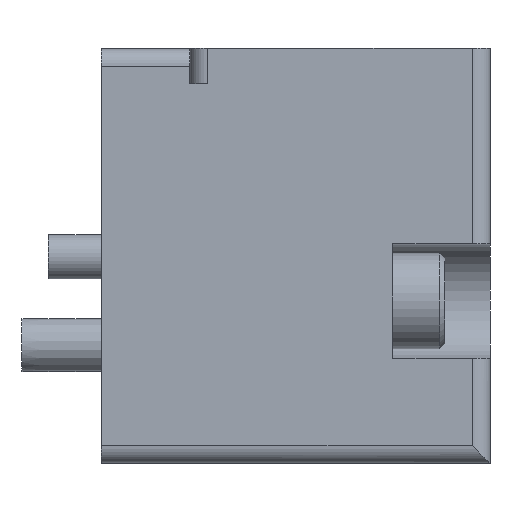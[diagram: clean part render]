
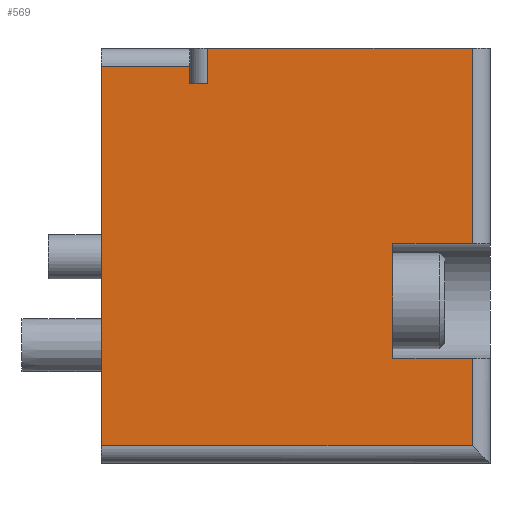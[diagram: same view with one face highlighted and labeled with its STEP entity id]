
A CAD part, left-side view. The second image highlights one B-rep face of the part: STEP entity #569.
In plain terms, the highlighted planar face has unit normal (-1, 0, 0).
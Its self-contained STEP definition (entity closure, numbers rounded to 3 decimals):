
#569=ADVANCED_FACE('',(#1288),#1289,.F.);
#1288=FACE_OUTER_BOUND('',#2159,.T.);
#1289=PLANE('',#2160);
#2159=EDGE_LOOP('',(#3736,#3737,#3738,#3739,#3740,#3741,#3742,#3743,#3744,#3745,#3746,#3747));
#2160=AXIS2_PLACEMENT_3D('',#3748,#3749,#3750);
#3736=ORIENTED_EDGE('',*,*,#4849,.T.);
#3737=ORIENTED_EDGE('',*,*,#4868,.T.);
#3738=ORIENTED_EDGE('',*,*,#4796,.F.);
#3739=ORIENTED_EDGE('',*,*,#4409,.T.);
#3740=ORIENTED_EDGE('',*,*,#4863,.T.);
#3741=ORIENTED_EDGE('',*,*,#4507,.T.);
#3742=ORIENTED_EDGE('',*,*,#4889,.T.);
#3743=ORIENTED_EDGE('',*,*,#4498,.F.);
#3744=ORIENTED_EDGE('',*,*,#4879,.T.);
#3745=ORIENTED_EDGE('',*,*,#4770,.T.);
#3746=ORIENTED_EDGE('',*,*,#4890,.F.);
#3747=ORIENTED_EDGE('',*,*,#4539,.T.);
#3748=CARTESIAN_POINT('',(-16.0,-22.0,-6.7));
#3749=DIRECTION('',(1.0,0.0,0.0));
#3750=DIRECTION('',(0.0,1.0,0.0));
#4409=EDGE_CURVE('',#5112,#5109,#5113,.T.);
#4498=EDGE_CURVE('',#5267,#5269,#5270,.T.);
#4507=EDGE_CURVE('',#5281,#5283,#5285,.T.);
#4539=EDGE_CURVE('',#5331,#5335,#5337,.T.);
#4770=EDGE_CURVE('',#5666,#5663,#5667,.T.);
#4796=EDGE_CURVE('',#5112,#5698,#5699,.T.);
#4849=EDGE_CURVE('',#5335,#5774,#5776,.T.);
#4863=EDGE_CURVE('',#5109,#5281,#5795,.T.);
#4868=EDGE_CURVE('',#5774,#5698,#5801,.T.);
#4879=EDGE_CURVE('',#5267,#5666,#5815,.T.);
#4889=EDGE_CURVE('',#5283,#5269,#5827,.T.);
#4890=EDGE_CURVE('',#5331,#5663,#5828,.T.);
#5109=VERTEX_POINT('',#6136);
#5112=VERTEX_POINT('',#6139);
#5113=LINE('',#6140,#6141);
#5267=VERTEX_POINT('',#6349);
#5269=VERTEX_POINT('',#6351);
#5270=LINE('',#6352,#6353);
#5281=VERTEX_POINT('',#6366);
#5283=VERTEX_POINT('',#6369);
#5285=LINE('',#6371,#6372);
#5331=VERTEX_POINT('',#6432);
#5335=VERTEX_POINT('',#6437);
#5337=LINE('',#6440,#6441);
#5663=VERTEX_POINT('',#6886);
#5666=VERTEX_POINT('',#6889);
#5667=LINE('',#6890,#6891);
#5698=VERTEX_POINT('',#6932);
#5699=LINE('',#6933,#6934);
#5774=VERTEX_POINT('',#7020);
#5776=LINE('',#7022,#7023);
#5795=LINE('',#7049,#7050);
#5801=LINE('',#7056,#7057);
#5815=LINE('',#7074,#7075);
#5827=LINE('',#7088,#7089);
#5828=LINE('',#7090,#7091);
#6136=CARTESIAN_POINT('',(-16.0,-6.,14.8));
#6139=CARTESIAN_POINT('',(-16.0,-6.,16.8));
#6140=CARTESIAN_POINT('',(-16.0,-6.,14.8));
#6141=VECTOR('',#7443,1.0);
#6349=CARTESIAN_POINT('',(-16.0,0.,-5.7));
#6351=CARTESIAN_POINT('',(-16.0,0.,15.8));
#6352=CARTESIAN_POINT('',(-16.0,0.,-6.7));
#6353=VECTOR('',#7561,1.0);
#6366=CARTESIAN_POINT('',(-16.0,-5.0,14.8));
#6369=CARTESIAN_POINT('',(-16.0,-5.0,15.8));
#6371=CARTESIAN_POINT('',(-16.0,-5.0,-6.7));
#6372=VECTOR('',#7577,1.0);
#6432=CARTESIAN_POINT('',(-16.0,-16.5,-0.75));
#6437=CARTESIAN_POINT('',(-16.0,-16.5,5.75));
#6440=CARTESIAN_POINT('',(-16.0,-16.5,-0.75));
#6441=VECTOR('',#7615,1.0);
#6886=CARTESIAN_POINT('',(-16.0,-21.0,-0.75));
#6889=CARTESIAN_POINT('',(-16.0,-21.0,-5.7));
#6890=CARTESIAN_POINT('',(-16.0,-21.0,-6.7));
#6891=VECTOR('',#7846,1.0);
#6932=CARTESIAN_POINT('',(-16.0,-21.0,16.8));
#6933=CARTESIAN_POINT('',(-16.0,-5.,16.8));
#6934=VECTOR('',#7869,1.0);
#7020=CARTESIAN_POINT('',(-16.0,-21.0,5.75));
#7022=CARTESIAN_POINT('',(-16.0,-16.5,5.75));
#7023=VECTOR('',#7932,1.0);
#7049=CARTESIAN_POINT('',(-16.0,-22.0,14.8));
#7050=VECTOR('',#7946,1.0);
#7056=CARTESIAN_POINT('',(-16.0,-21.0,-6.7));
#7057=VECTOR('',#7950,1.0);
#7074=CARTESIAN_POINT('',(-16.0,-22.0,-5.7));
#7075=VECTOR('',#7963,1.0);
#7088=CARTESIAN_POINT('',(-16.0,-5.0,15.8));
#7089=VECTOR('',#7974,1.0);
#7090=CARTESIAN_POINT('',(-16.0,-16.5,-0.75));
#7091=VECTOR('',#7975,1.0);
#7443=DIRECTION('',(0.0,0.0,-1.0));
#7561=DIRECTION('',(0.0,0.0,1.0));
#7577=DIRECTION('',(0.0,0.0,1.0));
#7615=DIRECTION('',(0.0,0.0,1.0));
#7846=DIRECTION('',(0.0,0.0,1.0));
#7869=DIRECTION('',(0.0,-1.0,0.0));
#7932=DIRECTION('',(0.0,-1.0,0.0));
#7946=DIRECTION('',(0.0,1.0,0.0));
#7950=DIRECTION('',(0.0,0.0,1.0));
#7963=DIRECTION('',(0.0,-1.0,0.0));
#7974=DIRECTION('',(0.0,1.0,0.0));
#7975=DIRECTION('',(0.0,-1.0,0.0));
